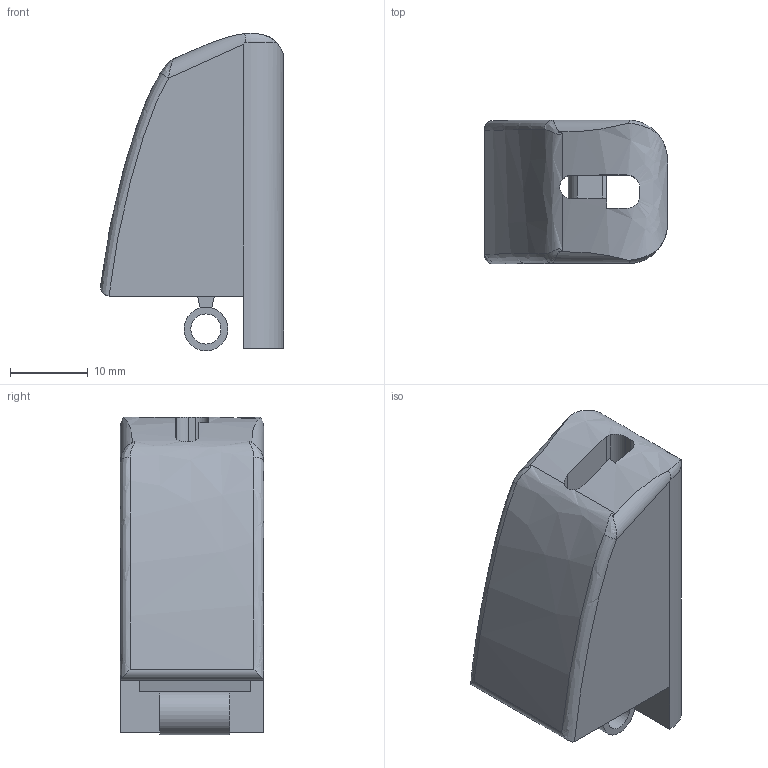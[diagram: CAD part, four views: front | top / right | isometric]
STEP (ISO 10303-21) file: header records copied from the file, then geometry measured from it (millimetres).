
FILE_DESCRIPTION(/* description */ ('STEP AP242 Edition 2','CAx-IF Rec.Pracs.---Representation and Presentation of Product Manufacturing Information (PMI)---4.0---2014-10-13','CAx-IF Rec.Pracs.---3D Tessellated Geometry---0.4---2014-09-14','2;1','CAx-IF Rec.Pracs.---User Defined Attributes---1.5---2016-08-15'),/* implementation_level */ '2;1');
FILE_NAME(/* name */ 'Main Assembly - Pinky Tih',/* time_stamp */ '2026-06-22T17:37:58Z',/* author */ (''),/* organization */ (''),/* preprocessor_version */ 'ST-DEVELOPER v20',/* originating_system */ 'ONSHAPE BY PTC INC, 1.216',/* authorisation */ ' ');
FILE_SCHEMA (('AP242_MANAGED_MODEL_BASED_3D_ENGINEERING_MIM_LF { 1 0 10303 442 3 1 4 }'));
Length unit declared in the file: metre
Products named in the file (1): Pinky Tih
Bounding box: 23.48 x 18.37 x 40.72 mm (x, y, z)
Volume: 10935.7 mm3; surface area: 4461.3 mm2
Topology: 1 solids, 1 shells, 59 faces, 170 edges, 110 vertices
Faces by surface type: plane 35, cylinder 14, bspline 6, torus 2, cone 2
Full cylindrical faces by diameter (mm): 3.865 x1
Entity records: 2233 total; most frequent: CARTESIAN_POINT 719, ORIENTED_EDGE 338, DIRECTION 273, EDGE_CURVE 169, VERTEX_POINT 110, LINE 105, VECTOR 105, AXIS2_PLACEMENT_3D 84
